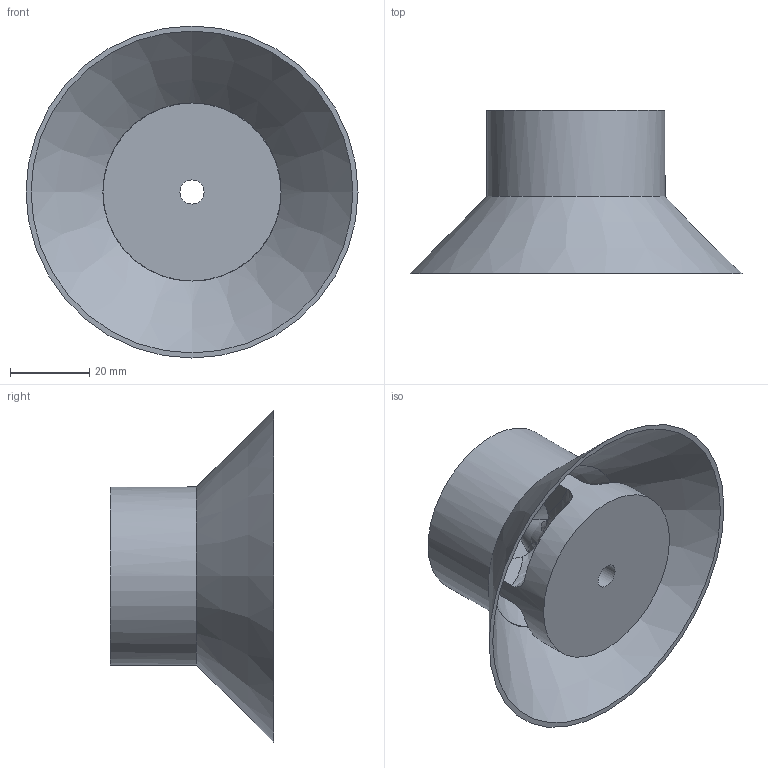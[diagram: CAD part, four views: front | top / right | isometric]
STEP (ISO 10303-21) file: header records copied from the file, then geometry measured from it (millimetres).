
FILE_DESCRIPTION(/* description */ (''),/* implementation_level */ '2;1');
FILE_NAME(/* name */ 'C:/Users/Owner/Desktop/KCAD 3Dp Fuel Filter Baffles Gen1/STEP Versions/1.77DIAx1.624 High Baffles STEP/1.77 Dia 24 CAL Baffle STEP.step',/* time_stamp */ '2019-05-22T19:23:47-04:00',/* author */ (''),/* organization */ (''),/* preprocessor_version */ 'ST-DEVELOPER v18',/* originating_system */ 'Autodesk Translation Framework v8.2.0.1029',/* authorisation */ '');
FILE_SCHEMA (('AUTOMOTIVE_DESIGN { 1 0 10303 214 3 1 1 }'));
Length unit declared in the file: inch
Products named in the file (1): 1.77 dia 1.624 high 24 cal
Bounding box: 83.82 x 41.25 x 83.82 mm (x, y, z)
Volume: 51277.9 mm3; surface area: 23895.8 mm2
Topology: 1 solids, 1 shells, 40 faces, 145 edges, 100 vertices
Faces by surface type: plane 15, bspline 13, cylinder 8, cone 2, torus 2
Full cylindrical faces by diameter (mm): 6.096 x2, 44.958 x2
Entity records: 2790 total; most frequent: CARTESIAN_POINT 1663, ORIENTED_EDGE 290, DIRECTION 158, EDGE_CURVE 145, VERTEX_POINT 100, B_SPLINE_CURVE_WITH_KNOTS 70, AXIS2_PLACEMENT_3D 64, EDGE_LOOP 43
